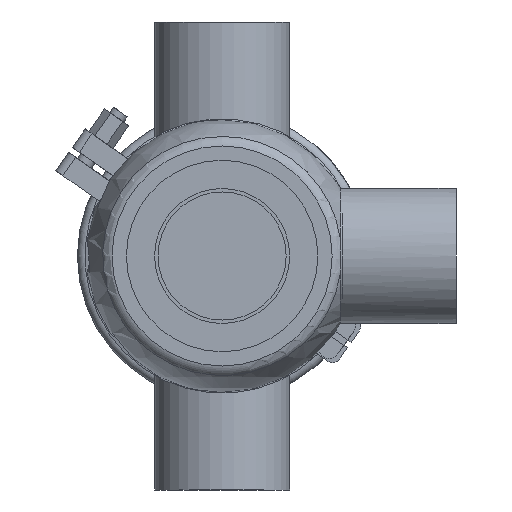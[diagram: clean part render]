
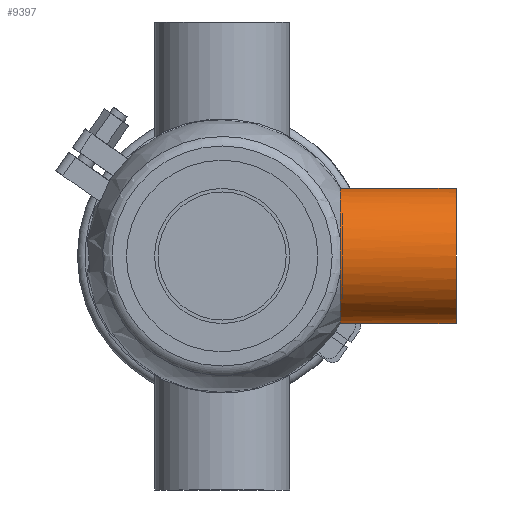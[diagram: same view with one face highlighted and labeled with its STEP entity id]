
A CAD part, front view. The second image highlights one B-rep face of the part: STEP entity #9397.
In plain terms, the highlighted cylindrical face has radius 31.75 mm (diameter 63.5 mm), a full revolution.
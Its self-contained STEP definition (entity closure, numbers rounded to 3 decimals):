
#161 = CARTESIAN_POINT ( 'NONE',  ( 55.569, -31.022, -6.903 ) ) ;
#245 = VERTEX_POINT ( 'NONE', #2005 ) ;
#950 = AXIS2_PLACEMENT_3D ( 'NONE', #19815, #6467, #6370 ) ;
#1009 = VERTEX_POINT ( 'NONE', #3181 ) ;
#1079 = CARTESIAN_POINT ( 'NONE',  ( 55.569, -30.657, 8.258 ) ) ;
#1910 = CARTESIAN_POINT ( 'NONE',  ( 55.468, -31.638, -2.759 ) ) ;
#2005 = CARTESIAN_POINT ( 'NONE',  ( 55.569, -30.657, 8.258 ) ) ;
#2822 = CARTESIAN_POINT ( 'NONE',  ( 55.569, -31.022, 6.904 ) ) ;
#3181 = CARTESIAN_POINT ( 'NONE',  ( 110., 0., 31.75 ) ) ;
#3188 = VERTEX_POINT ( 'NONE', #20437 ) ;
#3532 = CIRCLE ( 'NONE', #18084, 31.75 ) ;
#4445 = CIRCLE ( 'NONE', #950, 31.75 ) ;
#4887 = CARTESIAN_POINT ( 'NONE',  ( 55.569, -30.657, -8.258 ) ) ;
#5192 = DIRECTION ( 'NONE',  ( 0., 0., 1. ) ) ;
#5305 = CARTESIAN_POINT ( 'NONE',  ( 55.569, 0., 0. ) ) ;
#6124 = DIRECTION ( 'NONE',  ( 0., 0., 1. ) ) ;
#6370 = DIRECTION ( 'NONE',  ( 0., 0., 1. ) ) ;
#6467 = DIRECTION ( 'NONE',  ( -1., 0., 0. ) ) ;
#6819 = EDGE_CURVE ( 'NONE', #3188, #245, #3532, .T. ) ;
#7105 = ORIENTED_EDGE ( 'NONE', *, *, #6819, .T. ) ;
#7833 = CARTESIAN_POINT ( 'NONE',  ( 55.532, -31.293, 5.541 ) ) ;
#7919 = AXIS2_PLACEMENT_3D ( 'NONE', #10798, #20650, #6124 ) ;
#8545 = CARTESIAN_POINT ( 'NONE',  ( 55.532, -31.295, -5.534 ) ) ;
#8660 = DIRECTION ( 'NONE',  ( 1., 0., 0. ) ) ;
#8990 = EDGE_CURVE ( 'NONE', #1009, #1009, #4445, .T. ) ;
#9161 = FACE_OUTER_BOUND ( 'NONE', #9330, .T. ) ;
#9258 = FACE_OUTER_BOUND ( 'NONE', #10877, .T. ) ;
#9330 = EDGE_LOOP ( 'NONE', ( #7105, #16072 ) ) ;
#9397 = ADVANCED_FACE ( 'NONE', ( #9161, #9258 ), #12753, .T. ) ;
#9575 = B_SPLINE_CURVE_WITH_KNOTS ( 'NONE', 3,
 ( #1079, #2822, #7833, #14431, #21005, #16364, #19742, #1910, #10187, #8545, #161, #4887 ),
 .UNSPECIFIED., .F., .F.,
 ( 4, 2, 2, 2, 2, 4 ),
 ( 0., 0.004, 0.008, 0.01, 0.012, 0.017 ),
 .UNSPECIFIED. ) ;
#10187 = CARTESIAN_POINT ( 'NONE',  ( 55.483, -31.569, -3.456 ) ) ;
#10798 = CARTESIAN_POINT ( 'NONE',  ( 0., 0., 0. ) ) ;
#10877 = EDGE_LOOP ( 'NONE', ( #15722 ) ) ;
#11493 = EDGE_CURVE ( 'NONE', #245, #3188, #9575, .T. ) ;
#12753 = CYLINDRICAL_SURFACE ( 'NONE', #7919, 31.75 ) ;
#14431 = CARTESIAN_POINT ( 'NONE',  ( 55.468, -31.657, 2.799 ) ) ;
#15722 = ORIENTED_EDGE ( 'NONE', *, *, #8990, .T. ) ;
#16072 = ORIENTED_EDGE ( 'NONE', *, *, #11493, .T. ) ;
#16364 = CARTESIAN_POINT ( 'NONE',  ( 55.442, -31.751, -0.664 ) ) ;
#18084 = AXIS2_PLACEMENT_3D ( 'NONE', #5305, #8660, #5192 ) ;
#19742 = CARTESIAN_POINT ( 'NONE',  ( 55.447, -31.729, -1.361 ) ) ;
#19815 = CARTESIAN_POINT ( 'NONE',  ( 110., 0., 0. ) ) ;
#20437 = CARTESIAN_POINT ( 'NONE',  ( 55.569, -30.657, -8.258 ) ) ;
#20650 = DIRECTION ( 'NONE',  ( -1., 0., 0. ) ) ;
#21005 = CARTESIAN_POINT ( 'NONE',  ( 55.442, -31.749, 1.419 ) ) ;
